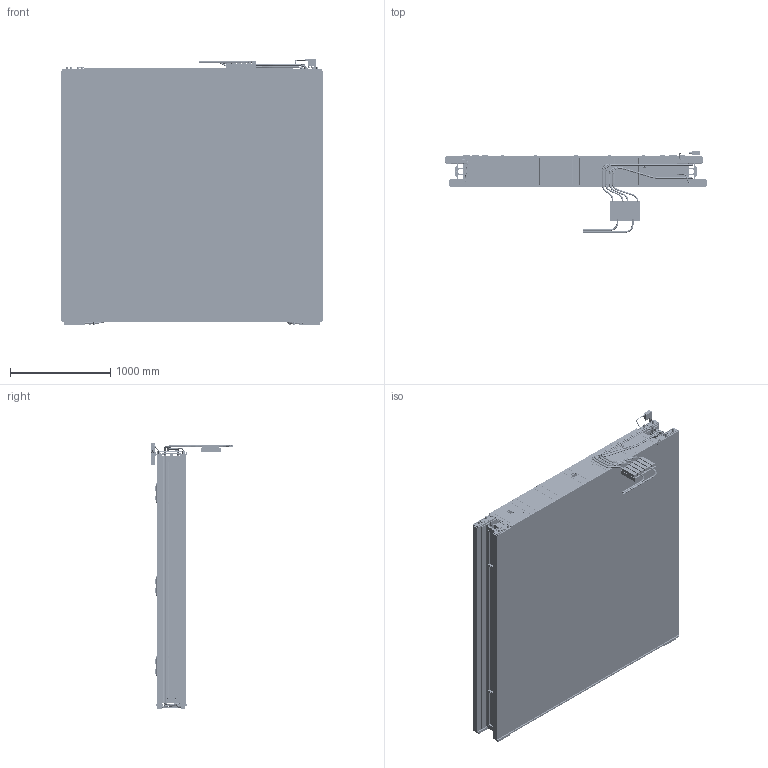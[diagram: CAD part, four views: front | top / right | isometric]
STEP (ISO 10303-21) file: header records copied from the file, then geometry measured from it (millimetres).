
FILE_DESCRIPTION(/* description */ (''),/* implementation_level */ '2;1');
FILE_NAME(/* name */ '040209_mb410_2_4_10_dx_phi_L_carters.stp',/* time_stamp */ '2022-07-08T12:36:17+02:00',/* author */ (''),/* organization */ (''),/* preprocessor_version */ 'ST-DEVELOPER v18.102',/* originating_system */ 'SIEMENS PLM Software NX 2000',/* authorisation */ '');
FILE_SCHEMA (('AUTOMOTIVE_DESIGN { 1 0 10303 214 3 1 1 1 }'));
Products named in the file (146): busbar_pin; ass_4_variables; piastra_0011_spess; piastra_0011; rivetto_4; guide_schematik_for_verify2; guide_schematik_for_verify; spina_5x26; elicoil; rivetto_svas_m10; power_supply_model; tappo1_4; connett_test_p; mb45_phi_lam_vars; mb3c_phi_lam_vars; mb3_phi_lam_vars; mb2c_th_lam_vars; mb2c_phi_lam_vars; mb2_th_lam_vars; mb2_phi_lam_vars; mb3c_th_lam_vars; mb45c_phi_lam_vars; mb3_th_lam_vars; mb48_phi_lam_vars; mb1_phi_lam_vars; mb1_th_lam_vars; mb49_phi_lam_vars; mb1c_phi_lam_vars; mb1c_th_lam_vars; cover_new2; axis; tappo1_8; colon_front_000308; block_sh12_000301; corpo_elbow; w4_10_hc_skin_178; w4_10_hc_core_178; cms_mb_05_010; fork; cms_mb_02_027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
Assembly tree (337 placements, depth 9):
  040209_mb410_2_4_10_dx_phi_L_carters
    mb410_2_4_10_dx_ass
      mb410_2_4_10_dx_ch
        mb2_phi_superlay  x2
          mb2_q1_ass_lamiere
            mb2_q1_b1
            mb2_q1_b1_up
            cms_mb_02_004  x4
              mb2_ass_4_variables
                ass_4_variables
          mb2_q1_ass_lateral
            as_angle  x2
              block_sh12_000301
              colon_front_000308
            cms_mb_02_014
          vite_m4
          mb2_q1_cover_hv_ass
            cms_mb_02_027
            cms_mb_02_022
              tappo1_8  x2
              axis  x35
            as_hv_conn_cover  x2
              cover_new2
          vars
            mb1c_th_vars
              mb1c_th_lam_vars
            mb1c_phi_vars
              mb1c_phi_lam_vars
            mb49_phi_vars
              mb49_phi_lam_vars
            mb1_th_vars
              mb1_th_lam_vars
            mb1_phi_vars
              mb1_phi_lam_vars
            mb48_phi_vars
              mb48_phi_lam_vars
            mb3_th_vars
              mb3_th_lam_vars
            mb45c_phi_vars
              mb45c_phi_lam_vars
            mb3c_th_vars
              mb3c_th_lam_vars
            mb2_phi_vars
              mb2_phi_lam_vars
            mb2_th_vars
              mb2_th_lam_vars
            mb2c_phi_vars
              mb2c_phi_lam_vars
            mb2c_th_vars
              mb2c_th_lam_vars
            mb3_phi_vars
              mb3_phi_lam_vars
            mb3c_phi_vars
              mb3c_phi_lam_vars
            mb45_phi_vars
              mb45_phi_lam_vars
          2550_ass
            2550_cms_mb_02_043
              axis  x39
              connett_test_p  x4
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Bounding box: 2612 x 815.75 x 2646.02 mm (x, y, z)
Volume: 2797068786.9 mm3; surface area: 333485122.4 mm2
Topology: 484 solids, 484 shells, 18728 faces, 49056 edges, 31382 vertices
Faces by surface type: plane 11082, cylinder 6145, cone 1160, bspline 172, torus 121, sphere 48
Full cylindrical faces by diameter (mm): 1 x296, 1.675 x16, 2 x16, 2.594 x72, 3 x88, 3.2 x16, 3.25 x2, 3.3 x48, 3.432 x509, 3.5 x62, 3.778 x7, 4 x36, 4.351 x8, 4.8 x66, 5 x101, 5.188 x80, 5.5 x400, 6 x23, 6.4 x50, 6.5 x17, 7 x4, 7.188 x4, 7.5 x96, 8 x63, 8.6 x8, 8.782 x4, 8.8 x10, 8.933 x32, 8.985 x48, 9 x4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
Entity records: 421408 total; most frequent: CARTESIAN_POINT 102463, DIRECTION 62073, ORIENTED_EDGE 61704, EDGE_CURVE 30852, AXIS2_PLACEMENT_3D 21452, VERTEX_POINT 20751, LINE 19169, VECTOR 19169
